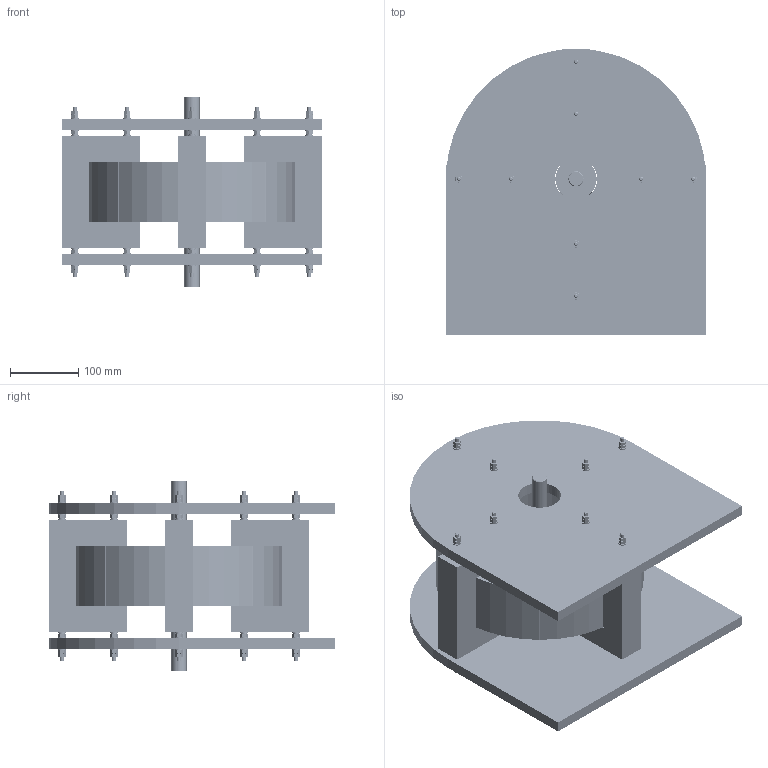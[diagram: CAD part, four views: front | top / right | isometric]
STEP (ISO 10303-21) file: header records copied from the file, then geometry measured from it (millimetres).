
FILE_DESCRIPTION((''),'2;1');
FILE_NAME('QEG-MOTOR_ASM','2014-03-28T',('wrenkel'),('EXAflow GmbH & Co. KG'),'PRO/ENGINEER BY PARAMETRIC TECHNOLOGY CORPORATION, 2009440','PRO/ENGINEER BY PARAMETRIC TECHNOLOGY CORPORATION, 2009440','');
FILE_SCHEMA(('CONFIG_CONTROL_DESIGN'));
Length unit declared in the file: millimetre
Products named in the file (12): STATORBLECH; STATORPAKET_ASM; ROTORBLECH; MOTORWELLE; ROTOR-PAKET_ASM; ABSTANDSHALTER; GEWINDESTANGE_M6X250; D125T2A6_4; E24032BM6; ENDPLATTE; ISOLIERPLATTE; QEG-MOTOR_ASM
Assembly tree (414 placements, depth 3):
  QEG-MOTOR_ASM
    STATORPAKET_ASM
      STATORBLECH  x140
    ROTOR-PAKET_ASM
      ROTORBLECH  x140
      MOTORWELLE
    ABSTANDSHALTER  x8
    GEWINDESTANGE_M6X250  x8
    D125T2A6_4  x48
    E24032BM6  x49
    ENDPLATTE  x2
    ISOLIERPLATTE  x16
Bounding box: 381 x 419.1 x 279.4 mm (x, y, z)
Volume: 10457685.5 mm3; surface area: 15219335.4 mm2
Topology: 412 solids, 412 shells, 14343 faces, 40080 edges, 26610 vertices
Faces by surface type: plane 7493, cylinder 6324, cone 526
Entity records: 9704 total; most frequent: DIRECTION 2290, CARTESIAN_POINT 1634, AXIS2_PLACEMENT_3D 1014, ORIENTED_EDGE 836, PRODUCT_DEFINITION_SHAPE 426, EDGE_CURVE 418, ITEM_DEFINED_TRANSFORMATION 414, CONTEXT_DEPENDENT_SHAPE_REPRESENTATION 414
